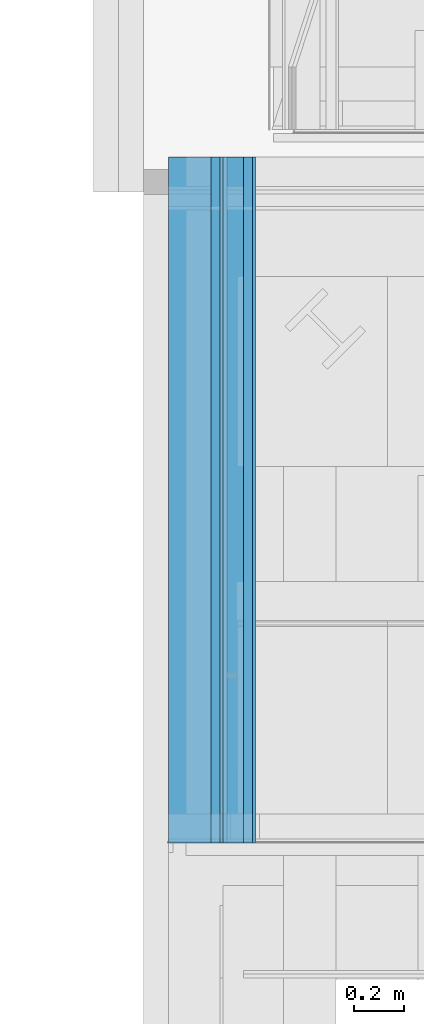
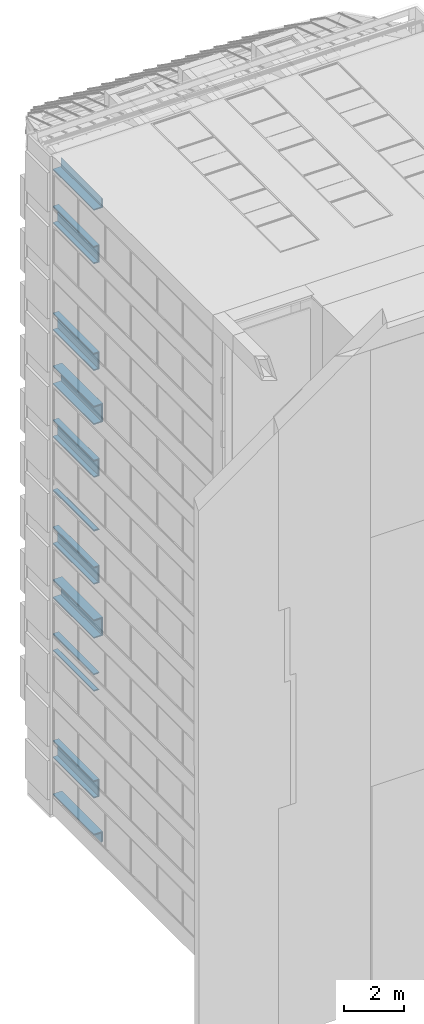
# One storey, part 83 of 583: 56 building element parts, 28 elements without a shape of their own.
"""IFC2X3 building model written with IfcOpenShell, lengths in metres."""

from ifc_helpers import new_model, entity, si_unit, converted_unit, derived_unit, money_unit, direction, frame, frame_2d, origin_with_axes, place, context, subcontext, project, spatial, polyline, rectangle, outline, extrude, material, type_object, element, aggregate, save


model = new_model("IFC2X3")

# Units and contexts
model_context = context("Model", 3, precision=1e-05, world=origin_with_axes(), true_north=direction((0.0, 1.0)))
body_context = subcontext(model_context, "Body", "Model", "MODEL_VIEW", scale=1.0)
ifc_project = project(units=[si_unit("LENGTHUNIT", "METRE"), si_unit("AREAUNIT", "SQUARE_METRE"), si_unit("VOLUMEUNIT", "CUBIC_METRE"), si_unit("ABSORBEDDOSEUNIT", "GRAY"), si_unit("AMOUNTOFSUBSTANCEUNIT", "MOLE"), si_unit("DOSEEQUIVALENTUNIT", "SIEVERT"), si_unit("ELECTRICCAPACITANCEUNIT", "FARAD"), si_unit("ELECTRICCHARGEUNIT", "COULOMB"), si_unit("ELECTRICCONDUCTANCEUNIT", "SIEMENS"), si_unit("ELECTRICCURRENTUNIT", "AMPERE"), si_unit("ELECTRICRESISTANCEUNIT", "OHM"), si_unit("ELECTRICVOLTAGEUNIT", "VOLT"), si_unit("ENERGYUNIT", "JOULE"), si_unit("FORCEUNIT", "NEWTON"), si_unit("FREQUENCYUNIT", "HERTZ"), si_unit("ILLUMINANCEUNIT", "LUX"), si_unit("INDUCTANCEUNIT", "HENRY"), si_unit("LUMINOUSFLUXUNIT", "LUMEN"), si_unit("LUMINOUSINTENSITYUNIT", "CANDELA"), si_unit("MAGNETICFLUXDENSITYUNIT", "TESLA"), si_unit("MAGNETICFLUXUNIT", "WEBER"), si_unit("MASSUNIT", "GRAM"), converted_unit("PLANEANGLEUNIT", "degree", entity("IfcReal", 0.0174532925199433), si_unit("PLANEANGLEUNIT", "RADIAN"), dimensions=[0, 0, 0, 0, 0, 0, 0]), si_unit("POWERUNIT", "WATT"), si_unit("PRESSUREUNIT", "PASCAL"), si_unit("RADIOACTIVITYUNIT", "BECQUEREL"), si_unit("SOLIDANGLEUNIT", "STERADIAN"), si_unit("THERMODYNAMICTEMPERATUREUNIT", "KELVIN"), si_unit("TIMEUNIT", "SECOND"), derived_unit("ACCELERATIONUNIT", [(si_unit("LENGTHUNIT", "METRE"), 1), (si_unit("TIMEUNIT", "SECOND"), -2)]), derived_unit("ANGULARVELOCITYUNIT", [(converted_unit("PLANEANGLEUNIT", "degree", entity("IfcReal", 0.0174532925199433), si_unit("PLANEANGLEUNIT", "RADIAN"), dimensions=[0, 0, 0, 0, 0, 0, 0]), 1), (si_unit("TIMEUNIT", "SECOND"), -1)]), derived_unit("CURVATUREUNIT", [(converted_unit("PLANEANGLEUNIT", "degree", entity("IfcReal", 0.0174532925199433), si_unit("PLANEANGLEUNIT", "RADIAN"), dimensions=[0, 0, 0, 0, 0, 0, 0]), 1), (si_unit("LENGTHUNIT", "METRE"), -1)]), derived_unit("DYNAMICVISCOSITYUNIT", [(si_unit("PRESSUREUNIT", "PASCAL"), 1), (si_unit("TIMEUNIT", "SECOND"), 1)]), derived_unit("HEATFLUXDENSITYUNIT", [(si_unit("POWERUNIT", "WATT"), 1), (si_unit("LENGTHUNIT", "METRE"), -2)]), derived_unit("HEATINGVALUEUNIT", [(si_unit("ENERGYUNIT", "JOULE"), 1), (si_unit("MASSUNIT", "GRAM"), -1)]), derived_unit("INTEGERCOUNTRATEUNIT", [(si_unit("TIMEUNIT", "SECOND"), -1)]), derived_unit("IONCONCENTRATIONUNIT", [(si_unit("MASSUNIT", "GRAM"), 1), (si_unit("VOLUMEUNIT", "CUBIC_METRE"), -1)]), derived_unit("ISOTHERMALMOISTURECAPACITYUNIT", [(si_unit("VOLUMEUNIT", "CUBIC_METRE"), 1), (si_unit("MASSUNIT", "GRAM"), -1)]), derived_unit("KINEMATICVISCOSITYUNIT", [(si_unit("AREAUNIT", "SQUARE_METRE"), 1), (si_unit("TIMEUNIT", "SECOND"), -1)]), derived_unit("LINEARFORCEUNIT", [(si_unit("FORCEUNIT", "NEWTON"), 1), (si_unit("LENGTHUNIT", "METRE"), -1)]), derived_unit("LINEARMOMENTUNIT", [(si_unit("FORCEUNIT", "NEWTON"), 1), (si_unit("LENGTHUNIT", "METRE"), -1)]), derived_unit("LINEARSTIFFNESSUNIT", [(si_unit("FORCEUNIT", "NEWTON"), 1), (si_unit("LENGTHUNIT", "METRE"), -1)]), derived_unit("LINEARVELOCITYUNIT", [(si_unit("LENGTHUNIT", "METRE"), 1), (si_unit("TIMEUNIT", "SECOND"), -1)]), derived_unit("LUMINOUSINTENSITYDISTRIBUTIONUNIT", [(si_unit("LUMINOUSINTENSITYUNIT", "CANDELA"), 1), (si_unit("LUMINOUSFLUXUNIT", "LUMEN"), -1)]), derived_unit("MASSDENSITYUNIT", [(si_unit("MASSUNIT", "GRAM"), 1), (si_unit("VOLUMEUNIT", "CUBIC_METRE"), -1)]), derived_unit("MASSFLOWRATEUNIT", [(si_unit("MASSUNIT", "GRAM"), 1), (si_unit("TIMEUNIT", "SECOND"), -1)]), derived_unit("MASSPERLENGTHUNIT", [(si_unit("MASSUNIT", "GRAM"), 1), (si_unit("LENGTHUNIT", "METRE"), -1)]), derived_unit("MODULUSOFELASTICITYUNIT", [(si_unit("FORCEUNIT", "NEWTON"), 1), (si_unit("AREAUNIT", "SQUARE_METRE"), -1)]), derived_unit("MODULUSOFLINEARSUBGRADEREACTIONUNIT", [(si_unit("FORCEUNIT", "NEWTON"), 1), (si_unit("LENGTHUNIT", "METRE"), -2)]), derived_unit("MODULUSOFROTATIONALSUBGRADEREACTIONUNIT", [(si_unit("FORCEUNIT", "NEWTON"), 1), (si_unit("LENGTHUNIT", "METRE"), 1)]), derived_unit("MODULUSOFSUBGRADEREACTIONUNIT", [(si_unit("FORCEUNIT", "NEWTON"), 1), (si_unit("VOLUMEUNIT", "CUBIC_METRE"), -1)]), derived_unit("MOISTUREDIFFUSIVITYUNIT", [(si_unit("VOLUMEUNIT", "CUBIC_METRE"), 1), (si_unit("TIMEUNIT", "SECOND"), -1)]), derived_unit("MOLECULARWEIGHTUNIT", [(si_unit("MASSUNIT", "GRAM"), 1), (si_unit("AMOUNTOFSUBSTANCEUNIT", "MOLE"), -1)]), derived_unit("PLANARFORCEUNIT", [(si_unit("FORCEUNIT", "NEWTON"), 1), (si_unit("LENGTHUNIT", "METRE"), -2)]), derived_unit("ROTATIONALFREQUENCYUNIT", [(si_unit("TIMEUNIT", "SECOND"), -1)]), derived_unit("ROTATIONALMASSUNIT", [(si_unit("MASSUNIT", "GRAM"), 1), (si_unit("LENGTHUNIT", "METRE"), 2)]), derived_unit("ROTATIONALSTIFFNESSUNIT", [(si_unit("FORCEUNIT", "NEWTON"), 1), (si_unit("LENGTHUNIT", "METRE"), 1), (converted_unit("PLANEANGLEUNIT", "degree", entity("IfcReal", 0.0174532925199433), si_unit("PLANEANGLEUNIT", "RADIAN"), dimensions=[0, 0, 0, 0, 0, 0, 0]), -1)]), derived_unit("SECTIONAREAINTEGRALUNIT", [(si_unit("LENGTHUNIT", "METRE"), 5)]), derived_unit("SECTIONMODULUSUNIT", [(si_unit("LENGTHUNIT", "METRE"), 3)]), derived_unit("SHEARMODULUSUNIT", [(si_unit("FORCEUNIT", "NEWTON"), 1), (si_unit("AREAUNIT", "SQUARE_METRE"), -1)]), derived_unit("SOUNDPOWERUNIT", [(si_unit("ENERGYUNIT", "JOULE"), 1), (si_unit("TIMEUNIT", "SECOND"), -1)]), derived_unit("SPECIFICHEATCAPACITYUNIT", [(si_unit("FORCEUNIT", "NEWTON"), 1), (si_unit("MASSUNIT", "GRAM"), -1), (si_unit("THERMODYNAMICTEMPERATUREUNIT", "KELVIN"), -1)]), derived_unit("TEMPERATUREGRADIENTUNIT", [(si_unit("THERMODYNAMICTEMPERATUREUNIT", "KELVIN"), 1), (si_unit("LENGTHUNIT", "METRE"), -1)]), derived_unit("THERMALADMITTANCEUNIT", [(si_unit("POWERUNIT", "WATT"), 1), (si_unit("AREAUNIT", "SQUARE_METRE"), -1), (si_unit("THERMODYNAMICTEMPERATUREUNIT", "KELVIN"), -1)]), derived_unit("THERMALCONDUCTANCEUNIT", [(si_unit("POWERUNIT", "WATT"), 1), (si_unit("LENGTHUNIT", "METRE"), -1), (si_unit("THERMODYNAMICTEMPERATUREUNIT", "KELVIN"), -1)]), derived_unit("THERMALEXPANSIONCOEFFICIENTUNIT", [(si_unit("THERMODYNAMICTEMPERATUREUNIT", "KELVIN"), -1)]), derived_unit("THERMALRESISTANCEUNIT", [(si_unit("AREAUNIT", "SQUARE_METRE"), 1), (si_unit("POWERUNIT", "WATT"), -1)]), derived_unit("THERMALTRANSMITTANCEUNIT", [(si_unit("POWERUNIT", "WATT"), 1), (si_unit("AREAUNIT", "SQUARE_METRE"), -1), (si_unit("THERMODYNAMICTEMPERATUREUNIT", "KELVIN"), -1)]), derived_unit("TORQUEUNIT", [(si_unit("FORCEUNIT", "NEWTON"), 1), (si_unit("LENGTHUNIT", "METRE"), 1)]), derived_unit("VAPORPERMEABILITYUNIT", [(si_unit("MASSUNIT", "GRAM"), 1), (si_unit("TIMEUNIT", "SECOND"), -1)]), derived_unit("VOLUMETRICFLOWRATEUNIT", [(si_unit("VOLUMEUNIT", "CUBIC_METRE"), 1), (si_unit("TIMEUNIT", "SECOND"), -1)]), derived_unit("WARPINGCONSTANTUNIT", [(si_unit("LENGTHUNIT", "METRE"), 6)]), derived_unit("WARPINGMOMENTUNIT", [(si_unit("FORCEUNIT", "NEWTON"), 1), (si_unit("LENGTHUNIT", "METRE"), 2)]), money_unit("GBP")], contexts=[model_context])

# Site, building, storey
site_placement = place(None, origin_with_axes())
site = spatial("IfcSite", under=ifc_project, at=site_placement, Name="Site", CompositionType="ELEMENT")
building_placement = place(site_placement, origin_with_axes())
building = spatial("IfcBuilding", under=site, at=building_placement, Name="Building01", CompositionType="ELEMENT")
storey_placement = place(building_placement, frame((0.0, 0.0, 20.78), z_axis=(0.0, 0.0, 1.0), x_axis=(1.0, 0.0, 0.0)))
storey = spatial("IfcBuildingStorey", under=building, at=storey_placement, Name="RL", CompositionType="ELEMENT", Elevation=20.78)

# Wall, building element parts
wall_type_1 = type_object("IfcWallType", Name="SHE_A-Walls_Type06d_ExternalWallInsulation_48mm", PredefinedType="NOTDEFINED")
wall_1_placement = place(storey_placement, frame((0.4, 12.13, -20.51), z_axis=(0.0, 1.0, 0.0), x_axis=(0.0, 0.0, 1.0)))
wall_1 = element("IfcWall", 1, at=wall_1_placement, inside=storey, type_object=wall_type_1, Name="6D", ObjectType="SHE_A-Walls_Type06d_ExternalWallInsulation_48mm")
ifc_material_1 = material(Name="A_BSUK_Insulation")
placement_1 = place(wall_1_placement, origin_with_axes())
building_element_part_1 = element("IfcBuildingElementPart", 2, at=placement_1, material=ifc_material_1, Name="1", context=body_context, shape_type="SweptSolid", body=[
    extrude(outline(polyline([(0.443, 0.036), (0.036, 0.036), (0.0, 0.0), (0.407, 0.0), (0.443, 0.036)])), origin_with_axes(), (0.0, 0.0, 1.0), 2.74),
])
ifc_material_2 = material(Name="A_BSUK_WallInternal_Finishes_Plasterboard")
building_element_part_2 = element("IfcBuildingElementPart", 3, at=placement_1, material=ifc_material_2, Name="3", context=body_context, shape_type="SweptSolid", body=[
    extrude(outline(polyline([(0.455, 0.048), (0.048, 0.048), (0.035, 0.035), (0.442, 0.035), (0.455, 0.048)])), origin_with_axes(), (0.0, 0.0, 1.0), 2.74),
])
aggregate(wall_1, [building_element_part_1, building_element_part_2])

wall_2_placement = place(storey_placement, frame((0.4, 12.13, -20.103), z_axis=(0.0, 1.0, 0.0), x_axis=(-1.0, 0.0, 0.0)))
wall_2 = element("IfcWall", 4, at=wall_2_placement, inside=storey, type_object=wall_type_1, Name="6D", ObjectType="SHE_A-Walls_Type06d_ExternalWallInsulation_48mm")
placement_2 = place(wall_2_placement, origin_with_axes())
building_element_part_3 = element("IfcBuildingElementPart", 5, at=placement_2, material=ifc_material_1, Name="1", context=body_context, shape_type="SweptSolid", body=[
    extrude(outline(polyline([(-0.036, 0.036), (0.0, 0.0), (0.3, 0.0), (0.3, 0.036), (-0.036, 0.036)])), origin_with_axes(), (0.0, 0.0, 1.0), 2.74),
])
building_element_part_4 = element("IfcBuildingElementPart", 6, at=placement_2, material=ifc_material_2, Name="3", context=body_context, shape_type="SweptSolid", body=[
    extrude(outline(polyline([(-0.048, 0.048), (-0.035, 0.035), (0.3, 0.035), (0.3, 0.048), (-0.048, 0.048)])), origin_with_axes(), (0.0, 0.0, 1.0), 2.74),
])
aggregate(wall_2, [building_element_part_3, building_element_part_4])

wall_3_placement = place(storey_placement, frame((0.1, 12.13, -18.537), z_axis=(0.0, 1.0, 0.0), x_axis=(1.0, 0.0, 0.0)))
wall_3 = element("IfcWall", 7, at=wall_3_placement, inside=storey, type_object=wall_type_1, Name="6D", ObjectType="SHE_A-Walls_Type06d_ExternalWallInsulation_48mm")
placement_3 = place(wall_3_placement, origin_with_axes())
building_element_part_5 = element("IfcBuildingElementPart", 8, at=placement_3, material=ifc_material_1, Name="1", context=body_context, shape_type="SweptSolid", body=[
    extrude(outline(polyline([(0.206, 0.036), (0.0, 0.036), (0.0, 0.0), (0.17, 0.0), (0.206, 0.036)])), origin_with_axes(), (0.0, 0.0, 1.0), 2.74),
])
building_element_part_6 = element("IfcBuildingElementPart", 9, at=placement_3, material=ifc_material_2, Name="3", context=body_context, shape_type="SweptSolid", body=[
    extrude(outline(polyline([(0.218, 0.048), (0.0, 0.048), (0.0, 0.035), (0.205, 0.035), (0.218, 0.048)])), origin_with_axes(), (0.0, 0.0, 1.0), 2.74),
])
aggregate(wall_3, [building_element_part_5, building_element_part_6])

wall_4_placement = place(storey_placement, frame((0.27, 12.13, -18.537), z_axis=(0.0, 1.0, 0.0), x_axis=(0.0, 0.0, 1.0)))
wall_4 = element("IfcWall", 10, at=wall_4_placement, inside=storey, type_object=wall_type_1, Name="6D", ObjectType="SHE_A-Walls_Type06d_ExternalWallInsulation_48mm")
placement_4 = place(wall_4_placement, origin_with_axes())
building_element_part_7 = element("IfcBuildingElementPart", 11, at=placement_4, material=ifc_material_1, Name="1", context=body_context, shape_type="SweptSolid", body=[
    extrude(outline(polyline([(0.66, 0.036), (-0.036, 0.036), (0.0, 0.0), (0.624, 0.0), (0.66, 0.036)])), origin_with_axes(), (0.0, 0.0, 1.0), 2.74),
])
building_element_part_8 = element("IfcBuildingElementPart", 12, at=placement_4, material=ifc_material_2, Name="3", context=body_context, shape_type="SweptSolid", body=[
    extrude(outline(polyline([(0.672, 0.048), (-0.048, 0.048), (-0.035, 0.035), (0.659, 0.035), (0.672, 0.048)])), origin_with_axes(), (0.0, 0.0, 1.0), 2.74),
])
aggregate(wall_4, [building_element_part_7, building_element_part_8])

wall_5_placement = place(storey_placement, frame((0.27, 12.13, -17.913), z_axis=(0.0, 1.0, 0.0), x_axis=(-1.0, 0.0, 0.0)))
wall_5 = element("IfcWall", 13, at=wall_5_placement, inside=storey, type_object=wall_type_1, Name="6D", ObjectType="SHE_A-Walls_Type06d_ExternalWallInsulation_48mm")
placement_5 = place(wall_5_placement, origin_with_axes())
building_element_part_9 = element("IfcBuildingElementPart", 14, at=placement_5, material=ifc_material_1, Name="1", context=body_context, shape_type="SweptSolid", body=[
    extrude(outline(polyline([(-0.036, 0.036), (0.0, 0.0), (0.17, 0.0), (0.17, 0.036), (-0.036, 0.036)])), origin_with_axes(), (0.0, 0.0, 1.0), 2.74),
])
building_element_part_10 = element("IfcBuildingElementPart", 15, at=placement_5, material=ifc_material_2, Name="3", context=body_context, shape_type="SweptSolid", body=[
    extrude(outline(polyline([(-0.048, 0.048), (-0.035, 0.035), (0.17, 0.035), (0.17, 0.048), (-0.048, 0.048)])), origin_with_axes(), (0.0, 0.0, 1.0), 2.74),
])
aggregate(wall_5, [building_element_part_9, building_element_part_10])

wall_6_placement = place(storey_placement, frame((0.1, 12.13, -14.157), z_axis=(0.0, 1.0, 0.0), x_axis=(1.0, 0.0, 0.0)))
wall_6 = element("IfcWall", 16, at=wall_6_placement, inside=storey, type_object=wall_type_1, Name="6D", ObjectType="SHE_A-Walls_Type06d_ExternalWallInsulation_48mm")
placement_6 = place(wall_6_placement, origin_with_axes())
building_element_part_11 = element("IfcBuildingElementPart", 17, at=placement_6, material=ifc_material_1, Name="1", context=body_context, shape_type="SweptSolid", body=[
    extrude(outline(polyline([(0.206, 0.036), (0.0, 0.036), (0.0, 0.0), (0.17, 0.0), (0.206, 0.036)])), origin_with_axes(), (0.0, 0.0, 1.0), 2.74),
])
building_element_part_12 = element("IfcBuildingElementPart", 18, at=placement_6, material=ifc_material_2, Name="3", context=body_context, shape_type="SweptSolid", body=[
    extrude(outline(polyline([(0.218, 0.048), (0.0, 0.048), (0.0, 0.035), (0.205, 0.035), (0.218, 0.048)])), origin_with_axes(), (0.0, 0.0, 1.0), 2.74),
])
aggregate(wall_6, [building_element_part_11, building_element_part_12])

wall_7_placement = place(storey_placement, frame((0.27, 12.13, -13.533), z_axis=(0.0, 1.0, 0.0), x_axis=(-1.0, 0.0, 0.0)))
wall_7 = element("IfcWall", 19, at=wall_7_placement, inside=storey, type_object=wall_type_1, Name="6D", ObjectType="SHE_A-Walls_Type06d_ExternalWallInsulation_48mm")
placement_7 = place(wall_7_placement, origin_with_axes())
building_element_part_13 = element("IfcBuildingElementPart", 20, at=placement_7, material=ifc_material_1, Name="1", context=body_context, shape_type="SweptSolid", body=[
    extrude(outline(polyline([(-0.036, 0.036), (0.0, 0.0), (0.17, 0.0), (0.17, 0.036), (-0.036, 0.036)])), origin_with_axes(), (0.0, 0.0, 1.0), 2.74),
])
building_element_part_14 = element("IfcBuildingElementPart", 21, at=placement_7, material=ifc_material_2, Name="3", context=body_context, shape_type="SweptSolid", body=[
    extrude(outline(polyline([(-0.048, 0.048), (-0.035, 0.035), (0.17, 0.035), (0.17, 0.048), (-0.048, 0.048)])), origin_with_axes(), (0.0, 0.0, 1.0), 2.74),
])
aggregate(wall_7, [building_element_part_13, building_element_part_14])

wall_8_placement = place(storey_placement, frame((0.1, 12.13, -11.99), z_axis=(0.0, 1.0, 0.0), x_axis=(1.0, 0.0, 0.0)))
wall_8 = element("IfcWall", 22, at=wall_8_placement, inside=storey, type_object=wall_type_1, Name="6D", ObjectType="SHE_A-Walls_Type06d_ExternalWallInsulation_48mm")
placement_8 = place(wall_8_placement, origin_with_axes())
building_element_part_15 = element("IfcBuildingElementPart", 23, at=placement_8, material=ifc_material_1, Name="1", context=body_context, shape_type="SweptSolid", body=[
    extrude(outline(polyline([(0.336, 0.036), (0.0, 0.036), (0.0, 0.0), (0.3, 0.0), (0.336, 0.036)])), origin_with_axes(), (0.0, 0.0, 1.0), 2.74),
])
building_element_part_16 = element("IfcBuildingElementPart", 24, at=placement_8, material=ifc_material_2, Name="3", context=body_context, shape_type="SweptSolid", body=[
    extrude(outline(polyline([(0.348, 0.048), (0.0, 0.048), (0.0, 0.035), (0.335, 0.035), (0.348, 0.048)])), origin_with_axes(), (0.0, 0.0, 1.0), 2.74),
])
aggregate(wall_8, [building_element_part_15, building_element_part_16])

wall_9_placement = place(storey_placement, frame((0.4, 12.13, -11.99), z_axis=(0.0, 1.0, 0.0), x_axis=(0.0, 0.0, 1.0)))
wall_9 = element("IfcWall", 25, at=wall_9_placement, inside=storey, type_object=wall_type_1, Name="6D", ObjectType="SHE_A-Walls_Type06d_ExternalWallInsulation_48mm")
placement_9 = place(wall_9_placement, origin_with_axes())
building_element_part_17 = element("IfcBuildingElementPart", 26, at=placement_9, material=ifc_material_1, Name="1", context=body_context, shape_type="SweptSolid", body=[
    extrude(outline(polyline([(0.706, 0.036), (-0.036, 0.036), (0.0, 0.0), (0.67, 0.0), (0.706, 0.036)])), origin_with_axes(), (0.0, 0.0, 1.0), 2.74),
])
building_element_part_18 = element("IfcBuildingElementPart", 27, at=placement_9, material=ifc_material_2, Name="3", context=body_context, shape_type="SweptSolid", body=[
    extrude(outline(polyline([(0.718, 0.048), (-0.048, 0.048), (-0.035, 0.035), (0.705, 0.035), (0.718, 0.048)])), origin_with_axes(), (0.0, 0.0, 1.0), 2.74),
])
aggregate(wall_9, [building_element_part_17, building_element_part_18])

wall_10_placement = place(storey_placement, frame((0.4, 12.13, -11.32), z_axis=(0.0, 1.0, 0.0), x_axis=(-1.0, 0.0, 0.0)))
wall_10 = element("IfcWall", 28, at=wall_10_placement, inside=storey, type_object=wall_type_1, Name="6D", ObjectType="SHE_A-Walls_Type06d_ExternalWallInsulation_48mm")
placement_10 = place(wall_10_placement, origin_with_axes())
building_element_part_19 = element("IfcBuildingElementPart", 29, at=placement_10, material=ifc_material_1, Name="1", context=body_context, shape_type="SweptSolid", body=[
    extrude(outline(polyline([(-0.036, 0.036), (0.0, 0.0), (0.3, 0.0), (0.3, 0.036), (-0.036, 0.036)])), origin_with_axes(), (0.0, 0.0, 1.0), 2.74),
])
building_element_part_20 = element("IfcBuildingElementPart", 30, at=placement_10, material=ifc_material_2, Name="3", context=body_context, shape_type="SweptSolid", body=[
    extrude(outline(polyline([(-0.048, 0.048), (-0.035, 0.035), (0.3, 0.035), (0.3, 0.048), (-0.048, 0.048)])), origin_with_axes(), (0.0, 0.0, 1.0), 2.74),
])
aggregate(wall_10, [building_element_part_19, building_element_part_20])

wall_11_placement = place(storey_placement, frame((0.1, 12.13, -9.777), z_axis=(0.0, 1.0, 0.0), x_axis=(1.0, 0.0, 0.0)))
wall_11 = element("IfcWall", 31, at=wall_11_placement, inside=storey, type_object=wall_type_1, Name="6D", ObjectType="SHE_A-Walls_Type06d_ExternalWallInsulation_48mm")
placement_11 = place(wall_11_placement, origin_with_axes())
building_element_part_21 = element("IfcBuildingElementPart", 32, at=placement_11, material=ifc_material_1, Name="1", context=body_context, shape_type="SweptSolid", body=[
    extrude(outline(polyline([(0.206, 0.036), (0.0, 0.036), (0.0, 0.0), (0.17, 0.0), (0.206, 0.036)])), origin_with_axes(), (0.0, 0.0, 1.0), 2.74),
])
building_element_part_22 = element("IfcBuildingElementPart", 33, at=placement_11, material=ifc_material_2, Name="3", context=body_context, shape_type="SweptSolid", body=[
    extrude(outline(polyline([(0.218, 0.048), (0.0, 0.048), (0.0, 0.035), (0.205, 0.035), (0.218, 0.048)])), origin_with_axes(), (0.0, 0.0, 1.0), 2.74),
])
aggregate(wall_11, [building_element_part_21, building_element_part_22])

wall_12_placement = place(storey_placement, frame((0.27, 12.13, -9.777), z_axis=(0.0, 1.0, 0.0), x_axis=(0.0, 0.0, 1.0)))
wall_12 = element("IfcWall", 34, at=wall_12_placement, inside=storey, type_object=wall_type_1, Name="6D", ObjectType="SHE_A-Walls_Type06d_ExternalWallInsulation_48mm")
placement_12 = place(wall_12_placement, origin_with_axes())
building_element_part_23 = element("IfcBuildingElementPart", 35, at=placement_12, material=ifc_material_1, Name="1", context=body_context, shape_type="SweptSolid", body=[
    extrude(outline(polyline([(0.66, 0.036), (-0.036, 0.036), (0.0, 0.0), (0.624, 0.0), (0.66, 0.036)])), origin_with_axes(), (0.0, 0.0, 1.0), 2.74),
])
building_element_part_24 = element("IfcBuildingElementPart", 36, at=placement_12, material=ifc_material_2, Name="3", context=body_context, shape_type="SweptSolid", body=[
    extrude(outline(polyline([(0.672, 0.048), (-0.048, 0.048), (-0.035, 0.035), (0.659, 0.035), (0.672, 0.048)])), origin_with_axes(), (0.0, 0.0, 1.0), 2.74),
])
aggregate(wall_12, [building_element_part_23, building_element_part_24])

wall_13_placement = place(storey_placement, frame((0.27, 12.13, -9.153), z_axis=(0.0, 1.0, 0.0), x_axis=(-1.0, 0.0, 0.0)))
wall_13 = element("IfcWall", 37, at=wall_13_placement, inside=storey, type_object=wall_type_1, Name="6D", ObjectType="SHE_A-Walls_Type06d_ExternalWallInsulation_48mm")
placement_13 = place(wall_13_placement, origin_with_axes())
building_element_part_25 = element("IfcBuildingElementPart", 38, at=placement_13, material=ifc_material_1, Name="1", context=body_context, shape_type="SweptSolid", body=[
    extrude(outline(polyline([(-0.036, 0.036), (0.0, 0.0), (0.17, 0.0), (0.17, 0.036), (-0.036, 0.036)])), origin_with_axes(), (0.0, 0.0, 1.0), 2.74),
])
building_element_part_26 = element("IfcBuildingElementPart", 39, at=placement_13, material=ifc_material_2, Name="3", context=body_context, shape_type="SweptSolid", body=[
    extrude(outline(polyline([(-0.048, 0.048), (-0.035, 0.035), (0.17, 0.035), (0.17, 0.048), (-0.048, 0.048)])), origin_with_axes(), (0.0, 0.0, 1.0), 2.74),
])
aggregate(wall_13, [building_element_part_25, building_element_part_26])

wall_14_placement = place(storey_placement, frame((0.1, 12.13, -5.397), z_axis=(0.0, 1.0, 0.0), x_axis=(1.0, 0.0, 0.0)))
wall_14 = element("IfcWall", 40, at=wall_14_placement, inside=storey, type_object=wall_type_1, Name="6D", ObjectType="SHE_A-Walls_Type06d_ExternalWallInsulation_48mm")
placement_14 = place(wall_14_placement, origin_with_axes())
building_element_part_27 = element("IfcBuildingElementPart", 41, at=placement_14, material=ifc_material_1, Name="1", context=body_context, shape_type="SweptSolid", body=[
    extrude(outline(polyline([(0.206, 0.036), (0.0, 0.036), (0.0, 0.0), (0.17, 0.0), (0.206, 0.036)])), origin_with_axes(), (0.0, 0.0, 1.0), 2.74),
])
building_element_part_28 = element("IfcBuildingElementPart", 42, at=placement_14, material=ifc_material_2, Name="3", context=body_context, shape_type="SweptSolid", body=[
    extrude(outline(polyline([(0.218, 0.048), (0.0, 0.048), (0.0, 0.035), (0.205, 0.035), (0.218, 0.048)])), origin_with_axes(), (0.0, 0.0, 1.0), 2.74),
])
aggregate(wall_14, [building_element_part_27, building_element_part_28])

wall_15_placement = place(storey_placement, frame((0.27, 12.13, -5.397), z_axis=(0.0, 1.0, 0.0), x_axis=(0.0, 0.0, 1.0)))
wall_15 = element("IfcWall", 43, at=wall_15_placement, inside=storey, type_object=wall_type_1, Name="6D", ObjectType="SHE_A-Walls_Type06d_ExternalWallInsulation_48mm")
placement_15 = place(wall_15_placement, origin_with_axes())
building_element_part_29 = element("IfcBuildingElementPart", 44, at=placement_15, material=ifc_material_1, Name="1", context=body_context, shape_type="SweptSolid", body=[
    extrude(outline(polyline([(0.66, 0.036), (-0.036, 0.036), (0.0, 0.0), (0.624, 0.0), (0.66, 0.036)])), origin_with_axes(), (0.0, 0.0, 1.0), 2.74),
])
building_element_part_30 = element("IfcBuildingElementPart", 45, at=placement_15, material=ifc_material_2, Name="3", context=body_context, shape_type="SweptSolid", body=[
    extrude(outline(polyline([(0.672, 0.048), (-0.048, 0.048), (-0.035, 0.035), (0.659, 0.035), (0.672, 0.048)])), origin_with_axes(), (0.0, 0.0, 1.0), 2.74),
])
aggregate(wall_15, [building_element_part_29, building_element_part_30])

wall_16_placement = place(storey_placement, frame((0.27, 12.13, -4.773), z_axis=(0.0, 1.0, 0.0), x_axis=(-1.0, 0.0, 0.0)))
wall_16 = element("IfcWall", 46, at=wall_16_placement, inside=storey, type_object=wall_type_1, Name="6D", ObjectType="SHE_A-Walls_Type06d_ExternalWallInsulation_48mm")
placement_16 = place(wall_16_placement, origin_with_axes())
building_element_part_31 = element("IfcBuildingElementPart", 47, at=placement_16, material=ifc_material_1, Name="1", context=body_context, shape_type="SweptSolid", body=[
    extrude(outline(polyline([(-0.036, 0.036), (0.0, 0.0), (0.17, 0.0), (0.17, 0.036), (-0.036, 0.036)])), origin_with_axes(), (0.0, 0.0, 1.0), 2.74),
])
building_element_part_32 = element("IfcBuildingElementPart", 48, at=placement_16, material=ifc_material_2, Name="3", context=body_context, shape_type="SweptSolid", body=[
    extrude(outline(polyline([(-0.048, 0.048), (-0.035, 0.035), (0.17, 0.035), (0.17, 0.048), (-0.048, 0.048)])), origin_with_axes(), (0.0, 0.0, 1.0), 2.74),
])
aggregate(wall_16, [building_element_part_31, building_element_part_32])

wall_17_placement = place(storey_placement, frame((0.1, 12.13, -3.23), z_axis=(0.0, 1.0, 0.0), x_axis=(1.0, 0.0, 0.0)))
wall_17 = element("IfcWall", 49, at=wall_17_placement, inside=storey, type_object=wall_type_1, Name="6D", ObjectType="SHE_A-Walls_Type06d_ExternalWallInsulation_48mm")
placement_17 = place(wall_17_placement, origin_with_axes())
building_element_part_33 = element("IfcBuildingElementPart", 50, at=placement_17, material=ifc_material_1, Name="1", context=body_context, shape_type="SweptSolid", body=[
    extrude(outline(polyline([(0.336, 0.036), (0.0, 0.036), (0.0, 0.0), (0.3, 0.0), (0.336, 0.036)])), origin_with_axes(), (0.0, 0.0, 1.0), 2.74),
])
building_element_part_34 = element("IfcBuildingElementPart", 51, at=placement_17, material=ifc_material_2, Name="3", context=body_context, shape_type="SweptSolid", body=[
    extrude(outline(polyline([(0.348, 0.048), (0.0, 0.048), (0.0, 0.035), (0.335, 0.035), (0.348, 0.048)])), origin_with_axes(), (0.0, 0.0, 1.0), 2.74),
])
aggregate(wall_17, [building_element_part_33, building_element_part_34])

wall_18_placement = place(storey_placement, frame((0.4, 12.13, -3.23), z_axis=(0.0, 1.0, 0.0), x_axis=(0.0, 0.0, 1.0)))
wall_18 = element("IfcWall", 52, at=wall_18_placement, inside=storey, type_object=wall_type_1, Name="6D", ObjectType="SHE_A-Walls_Type06d_ExternalWallInsulation_48mm")
placement_18 = place(wall_18_placement, origin_with_axes())
building_element_part_35 = element("IfcBuildingElementPart", 53, at=placement_18, material=ifc_material_1, Name="1", context=body_context, shape_type="SweptSolid", body=[
    extrude(outline(polyline([(0.706, 0.036), (-0.036, 0.036), (0.0, 0.0), (0.67, 0.0), (0.706, 0.036)])), origin_with_axes(), (0.0, 0.0, 1.0), 2.74),
])
building_element_part_36 = element("IfcBuildingElementPart", 54, at=placement_18, material=ifc_material_2, Name="3", context=body_context, shape_type="SweptSolid", body=[
    extrude(outline(polyline([(0.718, 0.048), (-0.048, 0.048), (-0.035, 0.035), (0.705, 0.035), (0.718, 0.048)])), origin_with_axes(), (0.0, 0.0, 1.0), 2.74),
])
aggregate(wall_18, [building_element_part_35, building_element_part_36])

wall_19_placement = place(storey_placement, frame((0.4, 12.13, -2.56), z_axis=(0.0, 1.0, 0.0), x_axis=(-1.0, 0.0, 0.0)))
wall_19 = element("IfcWall", 55, at=wall_19_placement, inside=storey, type_object=wall_type_1, Name="6D", ObjectType="SHE_A-Walls_Type06d_ExternalWallInsulation_48mm")
placement_19 = place(wall_19_placement, origin_with_axes())
building_element_part_37 = element("IfcBuildingElementPart", 56, at=placement_19, material=ifc_material_1, Name="1", context=body_context, shape_type="SweptSolid", body=[
    extrude(outline(polyline([(-0.036, 0.036), (0.0, 0.0), (0.3, 0.0), (0.3, 0.036), (-0.036, 0.036)])), origin_with_axes(), (0.0, 0.0, 1.0), 2.74),
])
building_element_part_38 = element("IfcBuildingElementPart", 57, at=placement_19, material=ifc_material_2, Name="3", context=body_context, shape_type="SweptSolid", body=[
    extrude(outline(polyline([(-0.048, 0.048), (-0.035, 0.035), (0.3, 0.035), (0.3, 0.048), (-0.048, 0.048)])), origin_with_axes(), (0.0, 0.0, 1.0), 2.74),
])
aggregate(wall_19, [building_element_part_37, building_element_part_38])

wall_20_placement = place(storey_placement, frame((0.1, 12.13, -1.017), z_axis=(0.0, 1.0, 0.0), x_axis=(1.0, 0.0, 0.0)))
wall_20 = element("IfcWall", 58, at=wall_20_placement, inside=storey, type_object=wall_type_1, Name="6D", ObjectType="SHE_A-Walls_Type06d_ExternalWallInsulation_48mm")
placement_20 = place(wall_20_placement, origin_with_axes())
building_element_part_39 = element("IfcBuildingElementPart", 59, at=placement_20, material=ifc_material_1, Name="1", context=body_context, shape_type="SweptSolid", body=[
    extrude(outline(polyline([(0.206, 0.036), (0.0, 0.036), (0.0, 0.0), (0.17, 0.0), (0.206, 0.036)])), origin_with_axes(), (0.0, 0.0, 1.0), 2.74),
])
building_element_part_40 = element("IfcBuildingElementPart", 60, at=placement_20, material=ifc_material_2, Name="3", context=body_context, shape_type="SweptSolid", body=[
    extrude(outline(polyline([(0.218, 0.048), (0.0, 0.048), (0.0, 0.035), (0.205, 0.035), (0.218, 0.048)])), origin_with_axes(), (0.0, 0.0, 1.0), 2.74),
])
aggregate(wall_20, [building_element_part_39, building_element_part_40])

wall_21_placement = place(storey_placement, frame((0.27, 12.13, -0.393), z_axis=(0.0, 1.0, 0.0), x_axis=(-1.0, 0.0, 0.0)))
wall_21 = element("IfcWall", 61, at=wall_21_placement, inside=storey, type_object=wall_type_1, Name="6D", ObjectType="SHE_A-Walls_Type06d_ExternalWallInsulation_48mm")
placement_21 = place(wall_21_placement, origin_with_axes())
building_element_part_41 = element("IfcBuildingElementPart", 62, at=placement_21, material=ifc_material_1, Name="1", context=body_context, shape_type="SweptSolid", body=[
    extrude(outline(polyline([(-0.036, 0.036), (0.0, 0.0), (0.17, 0.0), (0.17, 0.036), (-0.036, 0.036)])), origin_with_axes(), (0.0, 0.0, 1.0), 2.74),
])
building_element_part_42 = element("IfcBuildingElementPart", 63, at=placement_21, material=ifc_material_2, Name="3", context=body_context, shape_type="SweptSolid", body=[
    extrude(outline(polyline([(-0.048, 0.048), (-0.035, 0.035), (0.17, 0.035), (0.17, 0.048), (-0.048, 0.048)])), origin_with_axes(), (0.0, 0.0, 1.0), 2.74),
])
aggregate(wall_21, [building_element_part_41, building_element_part_42])

wall_22_placement = place(storey_placement, frame((0.1, 12.13, 3.363), z_axis=(0.0, 1.0, 0.0), x_axis=(1.0, 0.0, 0.0)))
wall_22 = element("IfcWall", 64, at=wall_22_placement, inside=storey, type_object=wall_type_1, Name="6D", ObjectType="SHE_A-Walls_Type06d_ExternalWallInsulation_48mm")
placement_22 = place(wall_22_placement, origin_with_axes())
building_element_part_43 = element("IfcBuildingElementPart", 65, at=placement_22, material=ifc_material_1, Name="1", context=body_context, shape_type="SweptSolid", body=[
    extrude(outline(polyline([(0.206, 0.036), (0.0, 0.036), (0.0, 0.0), (0.17, 0.0), (0.206, 0.036)])), origin_with_axes(), (0.0, 0.0, 1.0), 2.74),
])
building_element_part_44 = element("IfcBuildingElementPart", 66, at=placement_22, material=ifc_material_2, Name="3", context=body_context, shape_type="SweptSolid", body=[
    extrude(outline(polyline([(0.218, 0.048), (0.0, 0.048), (0.0, 0.035), (0.205, 0.035), (0.218, 0.048)])), origin_with_axes(), (0.0, 0.0, 1.0), 2.74),
])
aggregate(wall_22, [building_element_part_43, building_element_part_44])

wall_23_placement = place(storey_placement, frame((0.27, 12.13, 3.363), z_axis=(0.0, 1.0, 0.0), x_axis=(0.0, 0.0, 1.0)))
wall_23 = element("IfcWall", 67, at=wall_23_placement, inside=storey, type_object=wall_type_1, Name="6D", ObjectType="SHE_A-Walls_Type06d_ExternalWallInsulation_48mm")
placement_23 = place(wall_23_placement, origin_with_axes())
building_element_part_45 = element("IfcBuildingElementPart", 68, at=placement_23, material=ifc_material_1, Name="1", context=body_context, shape_type="SweptSolid", body=[
    extrude(outline(polyline([(0.66, 0.036), (-0.036, 0.036), (0.0, 0.0), (0.624, 0.0), (0.66, 0.036)])), origin_with_axes(), (0.0, 0.0, 1.0), 2.74),
])
building_element_part_46 = element("IfcBuildingElementPart", 69, at=placement_23, material=ifc_material_2, Name="3", context=body_context, shape_type="SweptSolid", body=[
    extrude(outline(polyline([(0.672, 0.048), (-0.048, 0.048), (-0.035, 0.035), (0.659, 0.035), (0.672, 0.048)])), origin_with_axes(), (0.0, 0.0, 1.0), 2.74),
])
aggregate(wall_23, [building_element_part_45, building_element_part_46])

wall_24_placement = place(storey_placement, frame((0.27, 12.13, 3.987), z_axis=(0.0, 1.0, 0.0), x_axis=(-1.0, 0.0, 0.0)))
wall_24 = element("IfcWall", 70, at=wall_24_placement, inside=storey, type_object=wall_type_1, Name="6D", ObjectType="SHE_A-Walls_Type06d_ExternalWallInsulation_48mm")
placement_24 = place(wall_24_placement, origin_with_axes())
building_element_part_47 = element("IfcBuildingElementPart", 71, at=placement_24, material=ifc_material_1, Name="1", context=body_context, shape_type="SweptSolid", body=[
    extrude(outline(polyline([(-0.036, 0.036), (0.0, 0.0), (0.17, 0.0), (0.17, 0.036), (-0.036, 0.036)])), origin_with_axes(), (0.0, 0.0, 1.0), 2.74),
])
building_element_part_48 = element("IfcBuildingElementPart", 72, at=placement_24, material=ifc_material_2, Name="3", context=body_context, shape_type="SweptSolid", body=[
    extrude(outline(polyline([(-0.048, 0.048), (-0.035, 0.035), (0.17, 0.035), (0.17, 0.048), (-0.048, 0.048)])), origin_with_axes(), (0.0, 0.0, 1.0), 2.74),
])
aggregate(wall_24, [building_element_part_47, building_element_part_48])

wall_25_placement = place(storey_placement, frame((0.1, 12.13, 5.553), z_axis=(0.0, 1.0, 0.0), x_axis=(1.0, 0.0, 0.0)))
wall_25 = element("IfcWall", 73, at=wall_25_placement, inside=storey, type_object=wall_type_1, Name="6D", ObjectType="SHE_A-Walls_Type06d_ExternalWallInsulation_48mm")
placement_25 = place(wall_25_placement, origin_with_axes())
building_element_part_49 = element("IfcBuildingElementPart", 74, at=placement_25, material=ifc_material_1, Name="1", context=body_context, shape_type="SweptSolid", body=[
    extrude(outline(polyline([(0.336, 0.036), (0.0, 0.036), (0.0, 0.0), (0.3, 0.0), (0.336, 0.036)])), origin_with_axes(), (0.0, 0.0, 1.0), 2.74),
])
building_element_part_50 = element("IfcBuildingElementPart", 75, at=placement_25, material=ifc_material_2, Name="3", context=body_context, shape_type="SweptSolid", body=[
    extrude(outline(polyline([(0.348, 0.048), (0.0, 0.048), (0.0, 0.035), (0.335, 0.035), (0.348, 0.048)])), origin_with_axes(), (0.0, 0.0, 1.0), 2.74),
])
aggregate(wall_25, [building_element_part_49, building_element_part_50])

wall_26_placement = place(storey_placement, frame((0.4, 12.13, 5.553), z_axis=(0.0, 1.0, 0.0), x_axis=(0.0, 0.0, 1.0)))
wall_26 = element("IfcWall", 76, at=wall_26_placement, inside=storey, type_object=wall_type_1, Name="6D", ObjectType="SHE_A-Walls_Type06d_ExternalWallInsulation_48mm")
placement_26 = place(wall_26_placement, origin_with_axes())
building_element_part_51 = element("IfcBuildingElementPart", 77, at=placement_26, material=ifc_material_1, Name="1", context=body_context, shape_type="SweptSolid", body=[
    extrude(outline(polyline([(0.341, 0.036), (-0.036, 0.036), (0.0, 0.0), (0.377, 0.0), (0.341, 0.036)])), origin_with_axes(), (0.0, 0.0, 1.0), 2.74),
])
building_element_part_52 = element("IfcBuildingElementPart", 78, at=placement_26, material=ifc_material_2, Name="3", context=body_context, shape_type="SweptSolid", body=[
    extrude(outline(polyline([(0.329, 0.048), (-0.048, 0.048), (-0.035, 0.035), (0.342, 0.035), (0.329, 0.048)])), origin_with_axes(), (0.0, 0.0, 1.0), 2.74),
])
aggregate(wall_26, [building_element_part_51, building_element_part_52])

wall_27_placement = place(storey_placement, frame((0.27, 12.13, -1.017), z_axis=(0.0, 1.0, 0.0), x_axis=(0.0, 0.0, 1.0)))
wall_27 = element("IfcWall", 79, at=wall_27_placement, inside=storey, type_object=wall_type_1, Name="6D", ObjectType="SHE_A-Walls_Type06d_ExternalWallInsulation_48mm")
placement_27 = place(wall_27_placement, origin_with_axes())
building_element_part_53 = element("IfcBuildingElementPart", 80, at=placement_27, material=ifc_material_1, Name="1", context=body_context, shape_type="SweptSolid", body=[
    extrude(outline(polyline([(0.66, 0.036), (-0.036, 0.036), (0.0, 0.0), (0.624, 0.0), (0.66, 0.036)])), origin_with_axes(), (0.0, 0.0, 1.0), 2.74),
])
building_element_part_54 = element("IfcBuildingElementPart", 81, at=placement_27, material=ifc_material_2, Name="4", context=body_context, shape_type="SweptSolid", body=[
    extrude(outline(polyline([(0.672, 0.048), (-0.048, 0.048), (-0.035, 0.035), (0.659, 0.035), (0.672, 0.048)])), origin_with_axes(), (0.0, 0.0, 1.0), 2.74),
])
aggregate(wall_27, [building_element_part_53, building_element_part_54])

wall_type_2 = type_object("IfcWallType", Name="SHE_A-Walls_Type06f_ExternalWallInsulation_48+15mm", PredefinedType="NOTDEFINED")
wall_28_placement = place(storey_placement, frame((0.1, 12.13, -7.587), z_axis=(0.0, 1.0, 0.0), x_axis=(-1.0, 0.0, 0.0)))
wall_28 = element("IfcWall", 82, at=wall_28_placement, inside=storey, type_object=wall_type_2, Name="6F", ObjectType="SHE_A-Walls_Type06f_ExternalWallInsulation_48+15mm")
placement_28 = place(wall_28_placement, origin_with_axes())
building_element_part_55 = element("IfcBuildingElementPart", 83, at=placement_28, material=ifc_material_1, Name="1", context=body_context, shape_type="SweptSolid", body=[
    extrude(rectangle(XDim=0.17, YDim=0.036, at=frame_2d((-0.085, -0.018), x_axis=(1.0, 0.0))), origin_with_axes(), (0.0, 0.0, 1.0), 2.74),
])
building_element_part_56 = element("IfcBuildingElementPart", 84, at=placement_28, material=ifc_material_2, Name="3", context=body_context, shape_type="SweptSolid", body=[
    extrude(outline(polyline([(-0.233, -0.063), (0.0, -0.063), (0.0, -0.048), (-0.218, -0.048), (-0.233, -0.063)])), origin_with_axes(), (0.0, 0.0, 1.0), 2.74),
])
aggregate(wall_28, [building_element_part_55, building_element_part_56])

save(model, "model.ifc")
